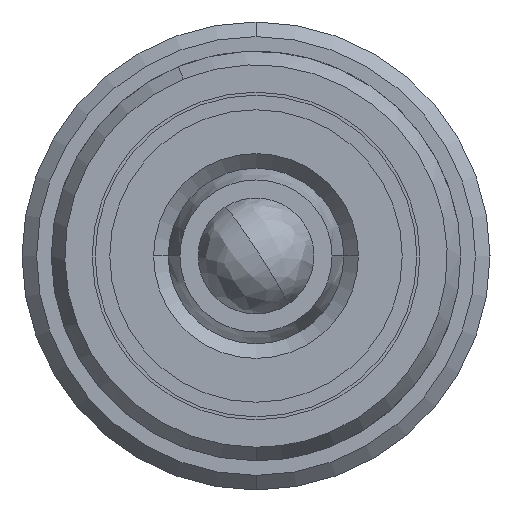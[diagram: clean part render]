
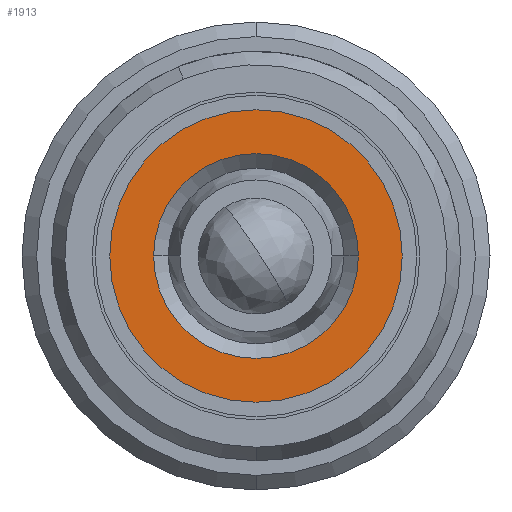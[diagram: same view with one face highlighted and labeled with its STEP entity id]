
A CAD part, left-side view. The second image highlights one B-rep face of the part: STEP entity #1913.
In plain terms, the highlighted planar face has unit normal (-1, 0, 0).
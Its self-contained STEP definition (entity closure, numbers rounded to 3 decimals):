
#882 = VERTEX_POINT ( 'NONE', #3156 ) ;
#1770 = VERTEX_POINT ( 'NONE', #5286 ) ;
#1772 = EDGE_CURVE ( 'NONE', #882, #1770, #5285, .T. ) ;
#1777 = VERTEX_POINT ( 'NONE', #5271 ) ;
#1800 = EDGE_CURVE ( 'NONE', #1801, #1777, #5087, .T. ) ;
#1801 = VERTEX_POINT ( 'NONE', #5363 ) ;
#1860 = ORIENTED_EDGE ( 'NONE', *, *, #1861, .F. ) ;
#1861 = EDGE_CURVE ( 'NONE', #1777, #1801, #5449, .T. ) ;
#1912 = EDGE_CURVE ( 'NONE', #1770, #882, #5554, .T. ) ;
#1913 = ADVANCED_FACE ( 'NONE', ( #5597, #5596 ), #5595, .T. ) ;
#1914 = EDGE_LOOP ( 'NONE', ( #1915, #1916 ) ) ;
#1915 = ORIENTED_EDGE ( 'NONE', *, *, #1772, .T. ) ;
#1916 = ORIENTED_EDGE ( 'NONE', *, *, #1912, .T. ) ;
#1917 = EDGE_LOOP ( 'NONE', ( #1918, #1860 ) ) ;
#1918 = ORIENTED_EDGE ( 'NONE', *, *, #1800, .F. ) ;
#3156 = CARTESIAN_POINT ( 'NONE',  ( -0.192, -4.282, 0. ) ) ;
#5087 = CIRCLE ( 'NONE', #5306, 5. ) ;
#5271 = CARTESIAN_POINT ( 'NONE',  ( -0.192, -5.782, 0. ) ) ;
#5281 = DIRECTION ( 'NONE',  ( 0., -1., 0. ) ) ;
#5282 = DIRECTION ( 'NONE',  ( 1., 0., 0. ) ) ;
#5283 = CARTESIAN_POINT ( 'NONE',  ( -0.192, -0.782, 0. ) ) ;
#5284 = AXIS2_PLACEMENT_3D ( 'NONE', #5283, #5282, #5281 ) ;
#5285 = CIRCLE ( 'NONE', #5284, 3.5 ) ;
#5286 = CARTESIAN_POINT ( 'NONE',  ( -0.192, 2.718, 0. ) ) ;
#5299 = DIRECTION ( 'NONE',  ( 1., 0., 0. ) ) ;
#5300 = CARTESIAN_POINT ( 'NONE',  ( -0.192, -0.782, 0. ) ) ;
#5306 = AXIS2_PLACEMENT_3D ( 'NONE', #5300, #5299, #5364 ) ;
#5363 = CARTESIAN_POINT ( 'NONE',  ( -0.192, 4.218, 0. ) ) ;
#5364 = DIRECTION ( 'NONE',  ( 0., 1., 0. ) ) ;
#5445 = DIRECTION ( 'NONE',  ( 0., 1., 0. ) ) ;
#5446 = DIRECTION ( 'NONE',  ( 1., 0., 0. ) ) ;
#5447 = CARTESIAN_POINT ( 'NONE',  ( -0.192, -0.782, 0. ) ) ;
#5448 = AXIS2_PLACEMENT_3D ( 'NONE', #5447, #5446, #5445 ) ;
#5449 = CIRCLE ( 'NONE', #5448, 5. ) ;
#5546 = DIRECTION ( 'NONE',  ( 0., -1., 0. ) ) ;
#5547 = DIRECTION ( 'NONE',  ( 1., 0., 0. ) ) ;
#5548 = CARTESIAN_POINT ( 'NONE',  ( -0.192, -0.782, 0. ) ) ;
#5549 = AXIS2_PLACEMENT_3D ( 'NONE', #5548, #5547, #5546 ) ;
#5554 = CIRCLE ( 'NONE', #5549, 3.5 ) ;
#5591 = DIRECTION ( 'NONE',  ( 0., -1., 0. ) ) ;
#5592 = DIRECTION ( 'NONE',  ( -1., 0., 0. ) ) ;
#5593 = CARTESIAN_POINT ( 'NONE',  ( -0.192, -1.258, -3.972 ) ) ;
#5594 = AXIS2_PLACEMENT_3D ( 'NONE', #5593, #5592, #5591 ) ;
#5595 = PLANE ( 'NONE',  #5594 ) ;
#5596 = FACE_OUTER_BOUND ( 'NONE', #1917, .T. ) ;
#5597 = FACE_BOUND ( 'NONE', #1914, .T. ) ;
